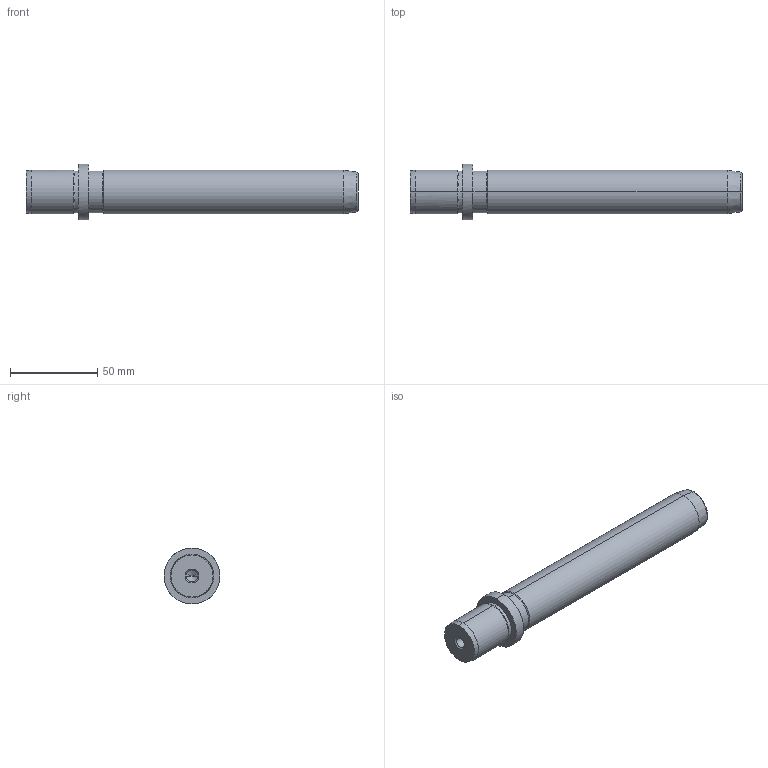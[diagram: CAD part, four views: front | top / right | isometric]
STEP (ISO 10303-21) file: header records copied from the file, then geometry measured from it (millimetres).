
FILE_DESCRIPTION(('CATIA V5 STEP Exchange'),'2;1');
FILE_NAME('C:\Users\Utente\Desktop\IO LAVORO\3D X SITO CF\X SITO\719\719-25x160.stp','2021-01-03T16:21:47+00:00',('none'),('none'),'CATIA Version 5 Release 20 GA (IN-10)','CATIA V5 STEP AP203','none');
FILE_SCHEMA(('CONFIG_CONTROL_DESIGN'));
Length unit declared in the file: millimetre
Products named in the file (1): 719-25x160
Bounding box: 190 x 32 x 32 mm (x, y, z)
Volume: 92568.8 mm3; surface area: 17558.9 mm2
Topology: 1 solids, 1 shells, 36 faces, 100 edges, 66 vertices
Faces by surface type: cone 16, cylinder 14, plane 4, torus 2
Entity records: 1270 total; most frequent: CARTESIAN_POINT 339, ORIENTED_EDGE 192, DIRECTION 158, EDGE_CURVE 96, AXIS2_PLACEMENT_3D 93, VERTEX_POINT 66, CIRCLE 56, EDGE_LOOP 40
